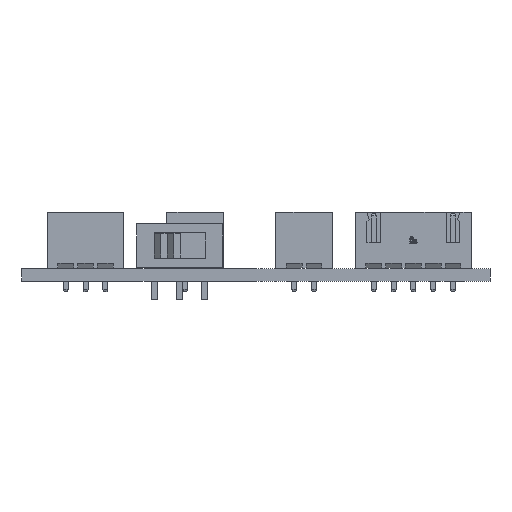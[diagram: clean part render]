
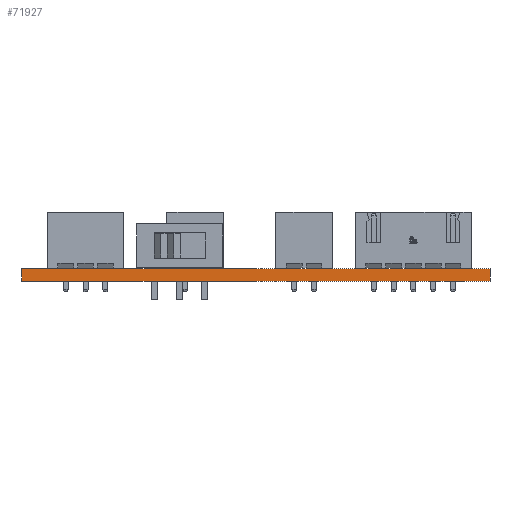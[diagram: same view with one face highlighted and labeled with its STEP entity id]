
A CAD part, front view. The second image highlights one B-rep face of the part: STEP entity #71927.
In plain terms, the highlighted planar face has unit normal (0, -1, 0).
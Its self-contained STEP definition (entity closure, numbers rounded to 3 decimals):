
#71746 = PLANE('',#71747);
#71747 = AXIS2_PLACEMENT_3D('',#71748,#71749,#71750);
#71748 = CARTESIAN_POINT('',(0.,80.,0.));
#71749 = DIRECTION('',(1.,0.,-0.));
#71750 = DIRECTION('',(0.,-1.,0.));
#71771 = VERTEX_POINT('',#71772);
#71772 = CARTESIAN_POINT('',(0.,0.,1.6));
#71786 = PLANE('',#71787);
#71787 = AXIS2_PLACEMENT_3D('',#71788,#71789,#71790);
#71788 = CARTESIAN_POINT('',(30.,40.,1.6));
#71789 = DIRECTION('',(0.,0.,1.));
#71790 = DIRECTION('',(1.,0.,-0.));
#71798 = EDGE_CURVE('',#71799,#71771,#71801,.T.);
#71799 = VERTEX_POINT('',#71800);
#71800 = CARTESIAN_POINT('',(0.,-0.,0.));
#71801 = SURFACE_CURVE('',#71802,(#71806,#71813),.PCURVE_S1.);
#71802 = LINE('',#71803,#71804);
#71803 = CARTESIAN_POINT('',(0.,-0.,0.));
#71804 = VECTOR('',#71805,1.);
#71805 = DIRECTION('',(0.,0.,1.));
#71806 = PCURVE('',#71746,#71807);
#71807 = DEFINITIONAL_REPRESENTATION('',(#71808),#71812);
#71808 = LINE('',#71809,#71810);
#71809 = CARTESIAN_POINT('',(80.,0.));
#71810 = VECTOR('',#71811,1.);
#71811 = DIRECTION('',(0.,-1.));
#71812 = ( GEOMETRIC_REPRESENTATION_CONTEXT(2) 
PARAMETRIC_REPRESENTATION_CONTEXT() REPRESENTATION_CONTEXT('2D SPACE',''
  ) );
#71813 = PCURVE('',#71814,#71819);
#71814 = PLANE('',#71815);
#71815 = AXIS2_PLACEMENT_3D('',#71816,#71817,#71818);
#71816 = CARTESIAN_POINT('',(0.,0.,0.));
#71817 = DIRECTION('',(0.,1.,0.));
#71818 = DIRECTION('',(1.,0.,0.));
#71819 = DEFINITIONAL_REPRESENTATION('',(#71820),#71824);
#71820 = LINE('',#71821,#71822);
#71821 = CARTESIAN_POINT('',(0.,0.));
#71822 = VECTOR('',#71823,1.);
#71823 = DIRECTION('',(0.,-1.));
#71824 = ( GEOMETRIC_REPRESENTATION_CONTEXT(2) 
PARAMETRIC_REPRESENTATION_CONTEXT() REPRESENTATION_CONTEXT('2D SPACE',''
  ) );
#71840 = PLANE('',#71841);
#71841 = AXIS2_PLACEMENT_3D('',#71842,#71843,#71844);
#71842 = CARTESIAN_POINT('',(30.,40.,0.));
#71843 = DIRECTION('',(0.,0.,1.));
#71844 = DIRECTION('',(1.,0.,-0.));
#71873 = PLANE('',#71874);
#71874 = AXIS2_PLACEMENT_3D('',#71875,#71876,#71877);
#71875 = CARTESIAN_POINT('',(60.,0.,0.));
#71876 = DIRECTION('',(-1.,0.,0.));
#71877 = DIRECTION('',(0.,1.,0.));
#71927 = ADVANCED_FACE('',(#71928),#71814,.F.);
#71928 = FACE_BOUND('',#71929,.F.);
#71929 = EDGE_LOOP('',(#71930,#71931,#71954,#71977));
#71930 = ORIENTED_EDGE('',*,*,#71798,.T.);
#71931 = ORIENTED_EDGE('',*,*,#71932,.T.);
#71932 = EDGE_CURVE('',#71771,#71933,#71935,.T.);
#71933 = VERTEX_POINT('',#71934);
#71934 = CARTESIAN_POINT('',(60.,0.,1.6));
#71935 = SURFACE_CURVE('',#71936,(#71940,#71947),.PCURVE_S1.);
#71936 = LINE('',#71937,#71938);
#71937 = CARTESIAN_POINT('',(0.,0.,1.6));
#71938 = VECTOR('',#71939,1.);
#71939 = DIRECTION('',(1.,0.,0.));
#71940 = PCURVE('',#71814,#71941);
#71941 = DEFINITIONAL_REPRESENTATION('',(#71942),#71946);
#71942 = LINE('',#71943,#71944);
#71943 = CARTESIAN_POINT('',(0.,-1.6));
#71944 = VECTOR('',#71945,1.);
#71945 = DIRECTION('',(1.,0.));
#71946 = ( GEOMETRIC_REPRESENTATION_CONTEXT(2) 
PARAMETRIC_REPRESENTATION_CONTEXT() REPRESENTATION_CONTEXT('2D SPACE',''
  ) );
#71947 = PCURVE('',#71786,#71948);
#71948 = DEFINITIONAL_REPRESENTATION('',(#71949),#71953);
#71949 = LINE('',#71950,#71951);
#71950 = CARTESIAN_POINT('',(-30.,-40.));
#71951 = VECTOR('',#71952,1.);
#71952 = DIRECTION('',(1.,0.));
#71953 = ( GEOMETRIC_REPRESENTATION_CONTEXT(2) 
PARAMETRIC_REPRESENTATION_CONTEXT() REPRESENTATION_CONTEXT('2D SPACE',''
  ) );
#71954 = ORIENTED_EDGE('',*,*,#71955,.F.);
#71955 = EDGE_CURVE('',#71956,#71933,#71958,.T.);
#71956 = VERTEX_POINT('',#71957);
#71957 = CARTESIAN_POINT('',(60.,-0.,0.));
#71958 = SURFACE_CURVE('',#71959,(#71963,#71970),.PCURVE_S1.);
#71959 = LINE('',#71960,#71961);
#71960 = CARTESIAN_POINT('',(60.,-0.,0.));
#71961 = VECTOR('',#71962,1.);
#71962 = DIRECTION('',(0.,0.,1.));
#71963 = PCURVE('',#71814,#71964);
#71964 = DEFINITIONAL_REPRESENTATION('',(#71965),#71969);
#71965 = LINE('',#71966,#71967);
#71966 = CARTESIAN_POINT('',(60.,0.));
#71967 = VECTOR('',#71968,1.);
#71968 = DIRECTION('',(0.,-1.));
#71969 = ( GEOMETRIC_REPRESENTATION_CONTEXT(2) 
PARAMETRIC_REPRESENTATION_CONTEXT() REPRESENTATION_CONTEXT('2D SPACE',''
  ) );
#71970 = PCURVE('',#71873,#71971);
#71971 = DEFINITIONAL_REPRESENTATION('',(#71972),#71976);
#71972 = LINE('',#71973,#71974);
#71973 = CARTESIAN_POINT('',(0.,0.));
#71974 = VECTOR('',#71975,1.);
#71975 = DIRECTION('',(0.,-1.));
#71976 = ( GEOMETRIC_REPRESENTATION_CONTEXT(2) 
PARAMETRIC_REPRESENTATION_CONTEXT() REPRESENTATION_CONTEXT('2D SPACE',''
  ) );
#71977 = ORIENTED_EDGE('',*,*,#71978,.F.);
#71978 = EDGE_CURVE('',#71799,#71956,#71979,.T.);
#71979 = SURFACE_CURVE('',#71980,(#71984,#71991),.PCURVE_S1.);
#71980 = LINE('',#71981,#71982);
#71981 = CARTESIAN_POINT('',(0.,-0.,0.));
#71982 = VECTOR('',#71983,1.);
#71983 = DIRECTION('',(1.,0.,0.));
#71984 = PCURVE('',#71814,#71985);
#71985 = DEFINITIONAL_REPRESENTATION('',(#71986),#71990);
#71986 = LINE('',#71987,#71988);
#71987 = CARTESIAN_POINT('',(0.,0.));
#71988 = VECTOR('',#71989,1.);
#71989 = DIRECTION('',(1.,0.));
#71990 = ( GEOMETRIC_REPRESENTATION_CONTEXT(2) 
PARAMETRIC_REPRESENTATION_CONTEXT() REPRESENTATION_CONTEXT('2D SPACE',''
  ) );
#71991 = PCURVE('',#71840,#71992);
#71992 = DEFINITIONAL_REPRESENTATION('',(#71993),#71997);
#71993 = LINE('',#71994,#71995);
#71994 = CARTESIAN_POINT('',(-30.,-40.));
#71995 = VECTOR('',#71996,1.);
#71996 = DIRECTION('',(1.,0.));
#71997 = ( GEOMETRIC_REPRESENTATION_CONTEXT(2) 
PARAMETRIC_REPRESENTATION_CONTEXT() REPRESENTATION_CONTEXT('2D SPACE',''
  ) );
